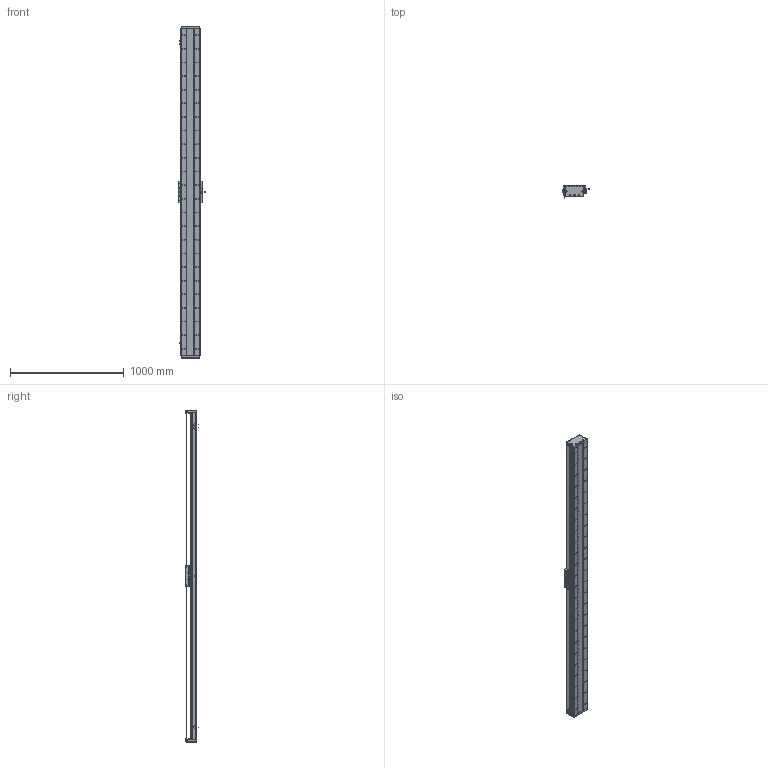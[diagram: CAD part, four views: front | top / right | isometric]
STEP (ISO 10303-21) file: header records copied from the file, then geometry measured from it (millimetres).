
FILE_DESCRIPTION (( 'STEP AP203' ), '1' );
FILE_NAME ('DA-C165-C2-T2640-C010-0.2 直线电机.STEP', '2023-05-11T07:50:15', ( '微软用户' ), ( '微软中国' ), 'SwSTEP 2.0', 'SolidWorks 2019', '' );
FILE_SCHEMA (( 'CONFIG_CONTROL_DESIGN' ));
Length unit declared in the file: millimetre
Products named in the file (18): 葩璃 CKM01-W075-TRL^DA-C165-C2-T-C010-0.2-N 眻盄萇儂; 复件 XD-U-02L 磁栅尺^DA-C165-C2-T-C010-0.2-N 直线电机_T; 复件 DA95-HXJ-00 缓冲橡胶^DA-C165-C2-T-C010-0.2-N 直线电机; 复件 DA165-GD-1860-002-00 钢带盖板^复件 CU165钢带组件_DA-C165-C2-T-C010-0.2-N 直线电机; 珨极趙賑雄怢啣wf-C2; 复件 DA165-GDLK-00 钢带拉块^复件 CU165钢带组件_DA-C165-C2-T-C010-0.2-N 直线电机; DA-C165-C2-T2640-C010-0.2 眻盄萇儂; 复件 DMA-010-0.2 读数头^DA-C165-C2-T-C010-0.2-N 直线电机; 复件 CU165钢带组件^DA-C165-C2-T-C010-0.2-N 直线电机; 复件 六角薄螺母 M3^DA-C165-C2-T-C010-0.2-N 直线电机_GB_FASTENER_NUT_STNAB M3-C; 复件 DA165-GYP-00 光电感应片^DA-C165-C2-T-C010-0.2-N 直线电机; 复件 DA165-GDYK-00 钢带压块^复件 CU165钢带组件_DA-C165-C2-T-C010-0.2-N 直线电机; IU-CU165-L 菁釱絳寢; 复件 CKM02-W075-C1C2-TP-3.0 一体电机-C2^DA-C165-C2-T-C010-0.2-N 直线电机; 复件 DA165-GD-DG-H-00 端盖^复件 CU165钢带组件_DA-C165-C2-T-C010-0.2-N 直线电机; IU-CU165-L-00 菁釱_L2880; 葩璃 DA95-GT-T-00^IU-CU165-L 菁釱絳寢_T; 葩璃 PM-T45^DA-C165-C2-T-C010-0.2-N 眻盄萇儂
Assembly tree (33 placements, depth 3):
  DA-C165-C2-T2640-C010-0.2 眻盄萇儂
    IU-CU165-L 菁釱絳寢
      IU-CU165-L-00 菁釱_L2880
      葩璃 DA95-GT-T-00^IU-CU165-L 菁釱絳寢_T  x4
    复件 XD-U-02L 磁栅尺^DA-C165-C2-T-C010-0.2-N 直线电机_T
    葩璃 PM-T45^DA-C165-C2-T-C010-0.2-N 眻盄萇儂  x3
    葩璃 CKM01-W075-TRL^DA-C165-C2-T-C010-0.2-N 眻盄萇儂
    复件 CU165钢带组件^DA-C165-C2-T-C010-0.2-N 直线电机
      复件 DA165-GD-DG-H-00 端盖^复件 CU165钢带组件_DA-C165-C2-T-C010-0.2-N 直线电机  x2
      复件 DA165-GDYK-00 钢带压块^复件 CU165钢带组件_DA-C165-C2-T-C010-0.2-N 直线电机  x2
      复件 DA165-GD-1860-002-00 钢带盖板^复件 CU165钢带组件_DA-C165-C2-T-C010-0.2-N 直线电机
      复件 DA165-GDLK-00 钢带拉块^复件 CU165钢带组件_DA-C165-C2-T-C010-0.2-N 直线电机  x2
    复件 DA95-HXJ-00 缓冲橡胶^DA-C165-C2-T-C010-0.2-N 直线电机  x4
    复件 DA165-GYP-00 光电感应片^DA-C165-C2-T-C010-0.2-N 直线电机
    复件 DMA-010-0.2 读数头^DA-C165-C2-T-C010-0.2-N 直线电机
    复件 CKM02-W075-C1C2-TP-3.0 一体电机-C2^DA-C165-C2-T-C010-0.2-N 直线电机
    复件 六角薄螺母 M3^DA-C165-C2-T-C010-0.2-N 直线电机_GB_FASTENER_NUT_STNAB M3-C  x6
    珨极趙賑雄怢啣wf-C2
Bounding box: 233 x 111.45 x 2920 mm (x, y, z)
Volume: 16011773.2 mm3; surface area: 4850541.6 mm2
Topology: 70 solids, 70 shells, 4027 faces, 11939 edges, 7645 vertices
Faces by surface type: cylinder 2437, plane 1110, cone 430, torus 46, sphere 4
Entity records: 138257 total; most frequent: CARTESIAN_POINT 38063, ORIENTED_EDGE 21050, DIRECTION 20091, EDGE_CURVE 10525, AXIS2_PLACEMENT_3D 7695, VERTEX_POINT 6881, EDGE_LOOP 4790, LINE 4701
